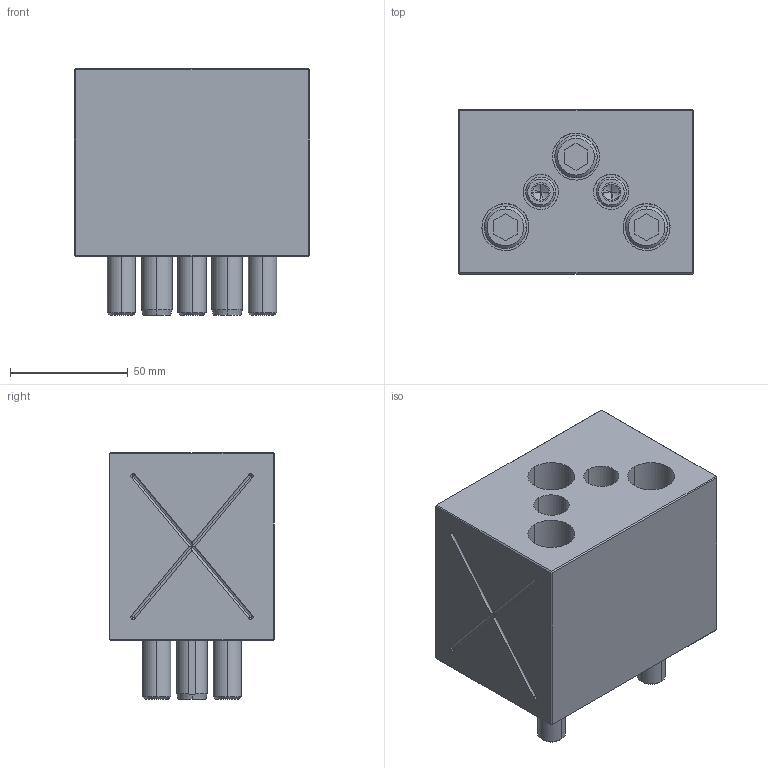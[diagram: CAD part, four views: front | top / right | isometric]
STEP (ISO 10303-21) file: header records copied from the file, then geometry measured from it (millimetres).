
FILE_DESCRIPTION(('CATIA V5 STEP Exchange'),'2;1');
FILE_NAME('D:\temp\coloor-modify-101001\PGWN\3d_pgwn100-80_4958_r00.stp','2010-10-01T01:05:24+00:00',('none'),('none'),'CATIA Version 5 Release 18 SP 5 (IN-10)','CATIA V5 STEP AP214','none');
FILE_SCHEMA(('AUTOMOTIVE_DESIGN { 1 0 10303 214 1 1 1 1 }'));
Length unit declared in the file: millimetre
Products named in the file (1): PGWN100-80
Bounding box: 100 x 70 x 105 mm (x, y, z)
Volume: 511646 mm3; surface area: 76058.6 mm2
Topology: 6 solids, 6 shells, 250 faces, 601 edges, 349 vertices
Faces by surface type: cylinder 112, plane 66, cone 48, revolution 24
Entity records: 7732 total; most frequent: CARTESIAN_POINT 2291, ORIENTED_EDGE 1138, DIRECTION 944, EDGE_CURVE 569, AXIS2_PLACEMENT_3D 424, VERTEX_POINT 349, EDGE_LOOP 278, VECTOR 271
